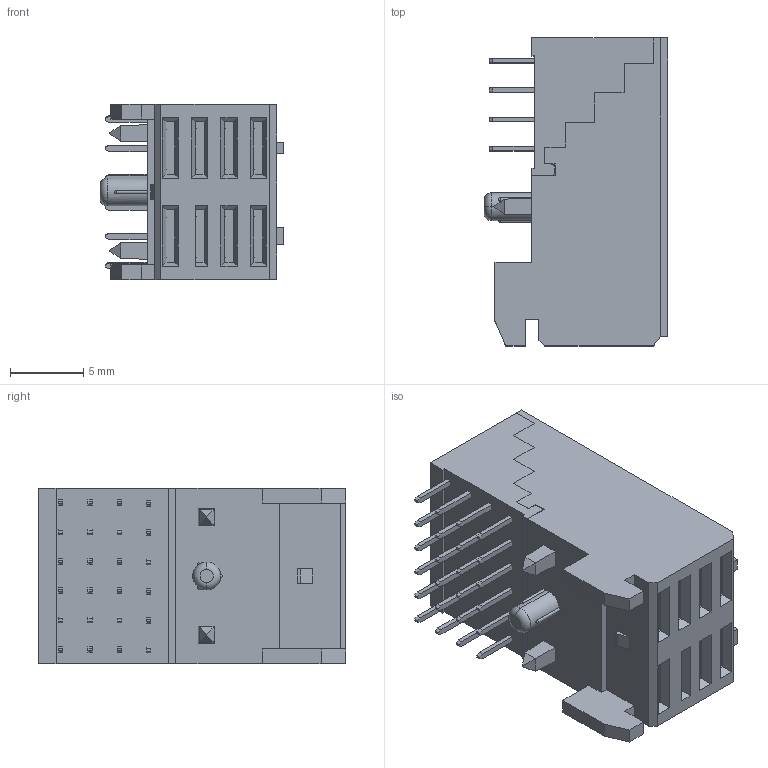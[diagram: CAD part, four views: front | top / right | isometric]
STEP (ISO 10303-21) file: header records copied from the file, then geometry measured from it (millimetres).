
FILE_DESCRIPTION (( 'STEP AP214' ), '1' );
FILE_NAME ('9111-44081C10DU.STEP', '2016-10-20T06:00:51', ( 'RD02' ), ( '' ), 'SwSTEP 2.0', 'SolidWorks 2011', '' );
FILE_SCHEMA (( 'AUTOMOTIVE_DESIGN' ));
Length unit declared in the file: millimetre
Products named in the file (7): 9111-4414B; 9111-4413B; 9111-4412B; 9111-4411B; 9111-4224蓋子; 9111-4408Y; 9111-44081C10DU
Assembly tree (10 placements, depth 2):
  9111-44081C10DU
    9111-4413B  x2
    9111-4411B  x2
    9111-4414B  x2
    9111-4412B  x2
    9111-4408Y
    9111-4224蓋子
Bounding box: 12.55 x 21 x 11.95 mm (x, y, z)
Volume: 2276.5 mm3; surface area: 2441 mm2
Topology: 30 solids, 30 shells, 622 faces, 1604 edges, 1051 vertices
Faces by surface type: plane 553, cylinder 58, bspline 9, torus 2
Entity records: 14326 total; most frequent: CARTESIAN_POINT 2758, ORIENTED_EDGE 2324, DIRECTION 2129, EDGE_CURVE 1162, VECTOR 1049, LINE 1049, VERTEX_POINT 759, AXIS2_PLACEMENT_3D 540
